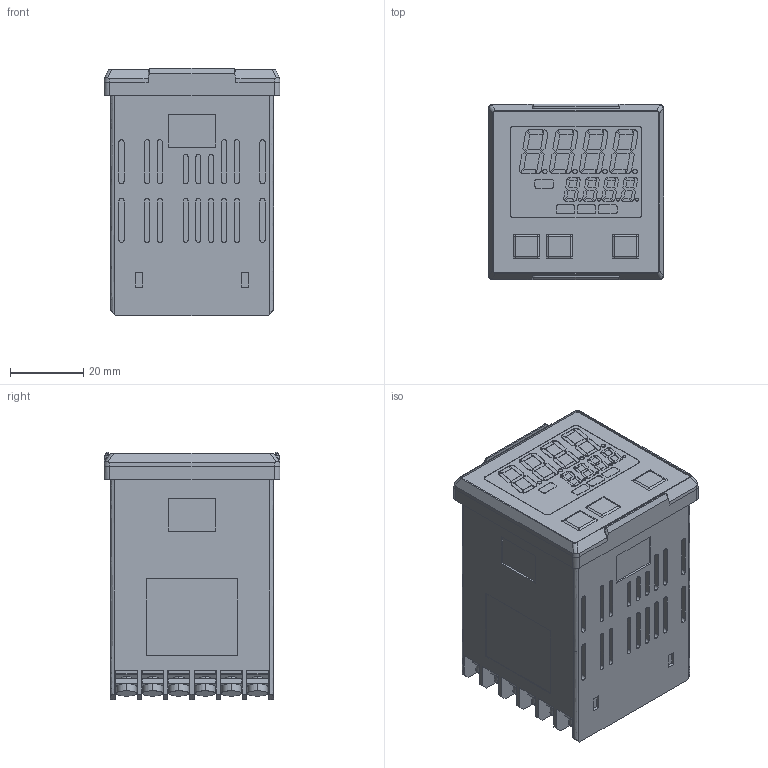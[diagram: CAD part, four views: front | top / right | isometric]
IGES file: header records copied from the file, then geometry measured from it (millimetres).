
Start section: SolidWorks IGES file using analytic representation for surfaces
Global section: file name: BCS3_251224.IGS; native system: SolidWorks 2022; preprocessor: SolidWorks 2022; author: kawanishi; date: 251224.160424; units: millimetre
Bounding box: 48 x 48 x 67.5 mm (x, y, z)
Surface area: 25896.7 mm2 (no closed solid volume)
Topology: 0 solids, 0 shells, 1283 faces, 10742 edges, 10742 vertices
Faces by surface type: bspline 921, revolution 362
